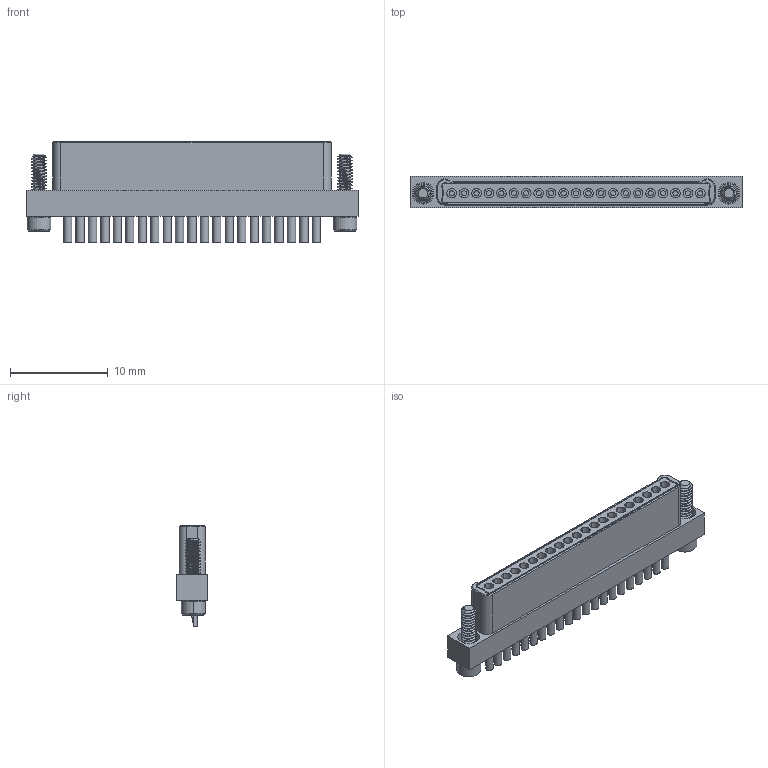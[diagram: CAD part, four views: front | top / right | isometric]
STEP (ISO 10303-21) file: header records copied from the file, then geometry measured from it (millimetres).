
FILE_DESCRIPTION (( 'STEP AP214' ), '1' );
FILE_NAME ('A91000-021 REV B.STEP', '2021-03-01T21:33:09', ( '' ), ( '' ), 'SwSTEP 2.0', 'SolidWorks 2019', '' );
FILE_SCHEMA (( 'AUTOMOTIVE_DESIGN' ));
Length unit declared in the file: inch
Products named in the file (1): A91000-021 REV B
Bounding box: 33.91 x 3.19 x 10.29 mm (x, y, z)
Volume: 537.3 mm3; surface area: 2247.6 mm2
Topology: 1 solids, 1 shells, 729 faces, 1717 edges, 1065 vertices
Faces by surface type: cylinder 327, plane 260, cone 72, bspline 54, torus 16
Entity records: 37256 total; most frequent: CARTESIAN_POINT 11520, ORIENTED_EDGE 3350, DIRECTION 3317, EDGE_CURVE 1675, AXIS2_PLACEMENT_3D 1224, VERTEX_POINT 1065, VECTOR 869, LINE 869
